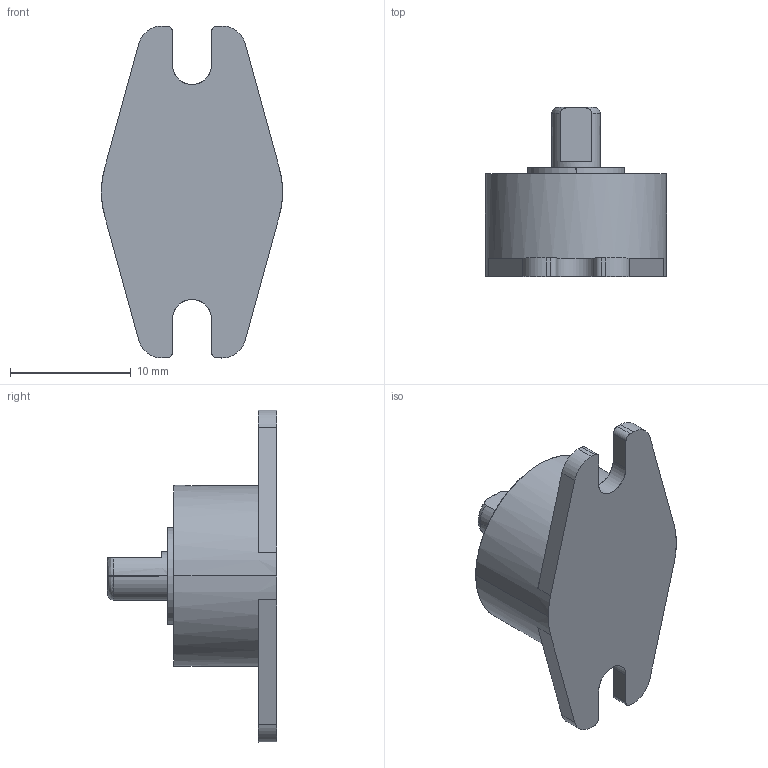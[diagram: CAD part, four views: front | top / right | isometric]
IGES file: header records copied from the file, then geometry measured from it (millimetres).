
Start section: SolidWorks IGES file using analytic representation for surfaces
Global section: file name: C:\3D-DATA\型式\R\【提出用】\IGS\FRN-C2.IGS; native system: SolidWorks 2014; preprocessor: SolidWorks 2014; author: flgijutsu; date: 140516.191530; units: millimetre
Bounding box: 15 x 14 x 27.5 mm (x, y, z)
Surface area: 1116.8 mm2 (no closed solid volume)
Topology: 0 solids, 0 shells, 40 faces, 621 edges, 621 vertices
Faces by surface type: bspline 24, revolution 16
